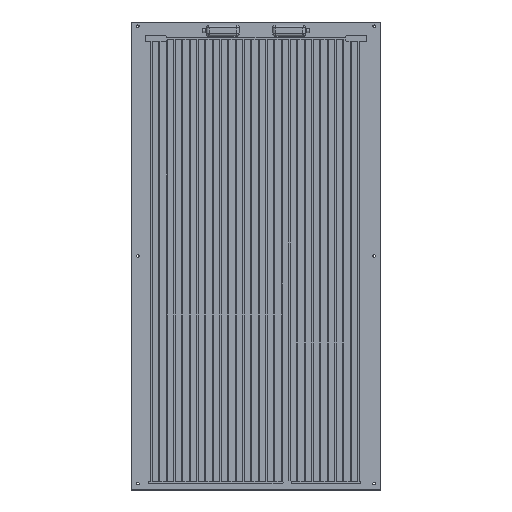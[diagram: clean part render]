
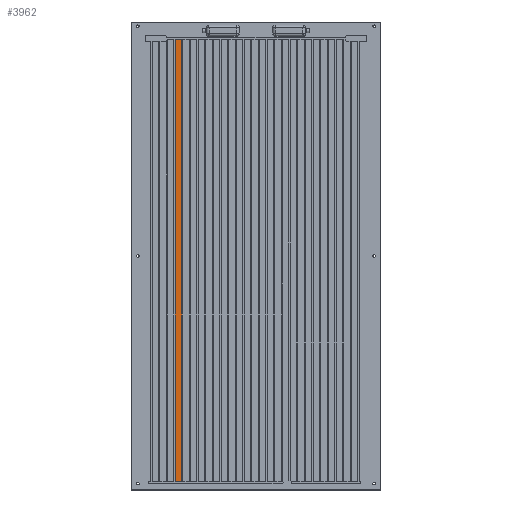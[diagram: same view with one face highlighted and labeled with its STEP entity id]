
A CAD part, top view. The second image highlights one B-rep face of the part: STEP entity #3962.
In plain terms, the highlighted planar face has unit normal (0, 0, 1).
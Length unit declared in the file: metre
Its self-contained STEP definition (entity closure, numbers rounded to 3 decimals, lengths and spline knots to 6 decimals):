
#398=LINE('',#6547,#853);
#402=LINE('',#6556,#857);
#405=LINE('',#6562,#860);
#462=LINE('',#6657,#917);
#853=VECTOR('',#5170,1.);
#857=VECTOR('',#5176,1.);
#860=VECTOR('',#5181,1.);
#917=VECTOR('',#5294,1.);
#1135=PLANE('',#4280);
#2133=ORIENTED_EDGE('',*,*,#2709,.T.);
#2134=ORIENTED_EDGE('',*,*,#2705,.T.);
#2135=ORIENTED_EDGE('',*,*,#2770,.F.);
#2136=ORIENTED_EDGE('',*,*,#2712,.F.);
#2705=EDGE_CURVE('',#3118,#3119,#398,.T.);
#2709=EDGE_CURVE('',#3122,#3118,#402,.T.);
#2712=EDGE_CURVE('',#3122,#3124,#405,.T.);
#2770=EDGE_CURVE('',#3124,#3119,#462,.T.);
#3118=VERTEX_POINT('',#6548);
#3119=VERTEX_POINT('',#6549);
#3122=VERTEX_POINT('',#6557);
#3124=VERTEX_POINT('',#6563);
#3453=EDGE_LOOP('',(#2133,#2134,#2135,#2136));
#3732=FACE_BOUND('',#3453,.T.);
#3962=ADVANCED_FACE('',(#3732),#1135,.T.);
#4280=AXIS2_PLACEMENT_3D('',#6667,#5308,#5309);
#5170=DIRECTION('',(1.,0.,0.));
#5176=DIRECTION('',(0.,-1.,0.));
#5181=DIRECTION('',(1.,0.,0.));
#5294=DIRECTION('',(0.,-1.,0.));
#5308=DIRECTION('',(0.,0.,1.));
#5309=DIRECTION('',(1.,0.,0.));
#6547=CARTESIAN_POINT('',(-0.181298,-0.526119,0.005));
#6548=CARTESIAN_POINT('',(-0.1888,-0.526119,0.005));
#6549=CARTESIAN_POINT('',(-0.173797,-0.526119,0.005));
#6556=CARTESIAN_POINT('',(-0.1888,-0.010309,0.005));
#6557=CARTESIAN_POINT('',(-0.1888,0.5055,0.005));
#6562=CARTESIAN_POINT('',(-0.181298,0.5055,0.005));
#6563=CARTESIAN_POINT('',(-0.173797,0.5055,0.005));
#6657=CARTESIAN_POINT('',(-0.173797,-0.010309,0.005));
#6667=CARTESIAN_POINT('',(0.133532,0.013223,0.005));
